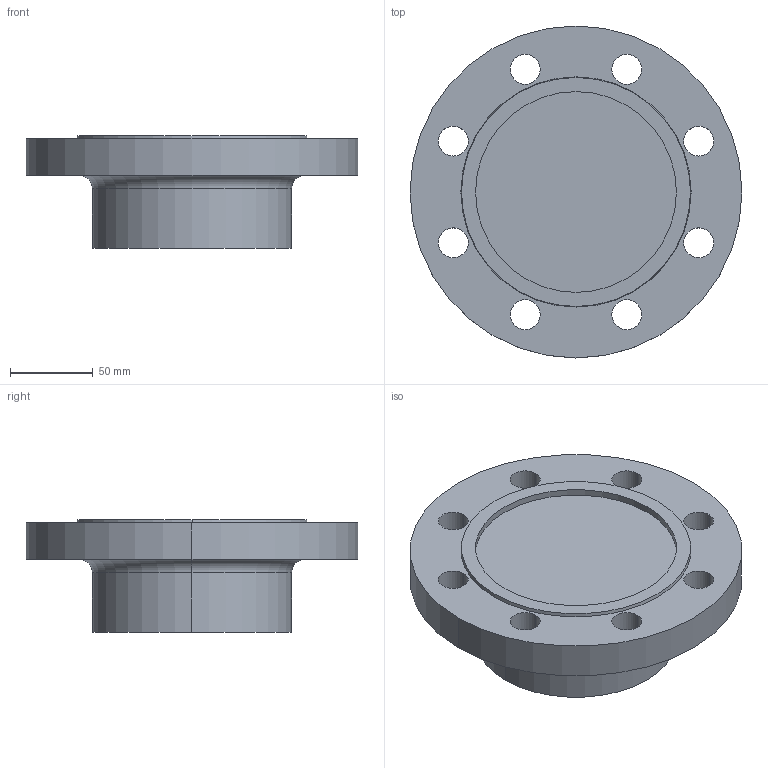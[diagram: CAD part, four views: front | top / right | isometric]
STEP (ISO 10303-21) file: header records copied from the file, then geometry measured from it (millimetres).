
FILE_DESCRIPTION (( 'STEP AP214' ), '1' );
FILE_NAME ('PN40 DN80 Type 21(i) - Type F Face.STEP', '2019-01-01T19:33:48', ( '' ), ( '' ), 'SwSTEP 2.0', 'SolidWorks 2019', '' );
FILE_SCHEMA (( 'AUTOMOTIVE_DESIGN' ));
Length unit declared in the file: millimetre
Products named in the file (1): PN40 DN80 Type 21(i) - Type F Face
Bounding box: 200 x 200 x 68 mm (x, y, z)
Volume: 1133395.5 mm3; surface area: 100107.5 mm2
Topology: 1 solids, 1 shells, 31 faces, 76 edges, 50 vertices
Faces by surface type: cylinder 22, plane 5, torus 2, cone 2
Entity records: 1012 total; most frequent: DIRECTION 192, CARTESIAN_POINT 158, ORIENTED_EDGE 152, AXIS2_PLACEMENT_3D 84, EDGE_CURVE 76, CIRCLE 52, VERTEX_POINT 50, EDGE_LOOP 50
